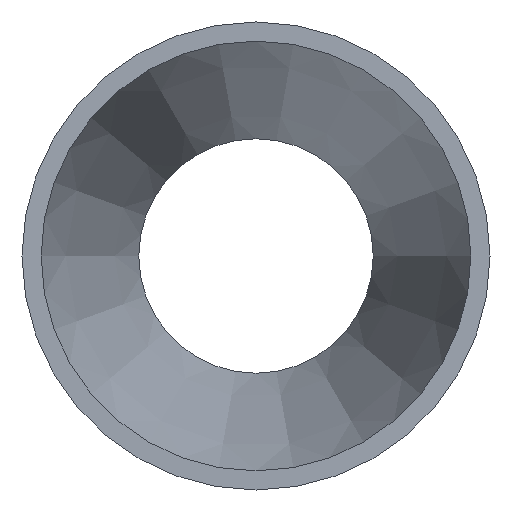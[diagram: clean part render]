
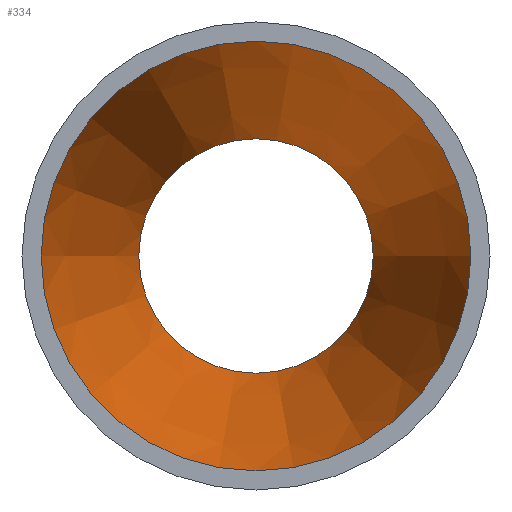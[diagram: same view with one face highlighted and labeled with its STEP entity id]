
A CAD part, left-side view. The second image highlights one B-rep face of the part: STEP entity #334.
In plain terms, the highlighted conical face has half-angle 13.601 degrees and reference radius 25.908 mm.
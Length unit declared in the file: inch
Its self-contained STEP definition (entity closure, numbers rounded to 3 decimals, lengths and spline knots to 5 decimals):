
#66=FACE_OUTER_BOUND('',#82,.T.);
#82=EDGE_LOOP('',(#235,#236,#237,#238,#239,#240));
#104=LINE('',#580,#114);
#114=VECTOR('',#447,1.02);
#127=CIRCLE('',#375,0.72);
#128=CIRCLE('',#376,1.32);
#129=CIRCLE('',#377,1.32);
#130=CIRCLE('',#378,0.72);
#159=VERTEX_POINT('',#576);
#160=VERTEX_POINT('',#577);
#161=VERTEX_POINT('',#579);
#162=VERTEX_POINT('',#581);
#192=EDGE_CURVE('',#159,#160,#127,.T.);
#193=EDGE_CURVE('',#160,#161,#104,.T.);
#194=EDGE_CURVE('',#162,#161,#128,.T.);
#195=EDGE_CURVE('',#161,#162,#129,.T.);
#196=EDGE_CURVE('',#160,#159,#130,.T.);
#235=ORIENTED_EDGE('',*,*,#192,.T.);
#236=ORIENTED_EDGE('',*,*,#193,.T.);
#237=ORIENTED_EDGE('',*,*,#194,.F.);
#238=ORIENTED_EDGE('',*,*,#195,.F.);
#239=ORIENTED_EDGE('',*,*,#193,.F.);
#240=ORIENTED_EDGE('',*,*,#196,.T.);
#314=CONICAL_SURFACE('',#374,1.02,0.237);
#334=ADVANCED_FACE('',(#66),#314,.F.);
#374=AXIS2_PLACEMENT_3D('',#575,#443,#444);
#375=AXIS2_PLACEMENT_3D('',#578,#445,#446);
#376=AXIS2_PLACEMENT_3D('',#582,#448,#449);
#377=AXIS2_PLACEMENT_3D('',#583,#450,#451);
#378=AXIS2_PLACEMENT_3D('',#584,#452,#453);
#443=DIRECTION('center_axis',(-1.,0.,0.));
#444=DIRECTION('ref_axis',(0.,1.,0.));
#445=DIRECTION('center_axis',(1.,0.,0.));
#446=DIRECTION('ref_axis',(0.,1.,0.));
#447=DIRECTION('',(-0.972,-0.235,0.));
#448=DIRECTION('center_axis',(1.,0.,0.));
#449=DIRECTION('ref_axis',(0.,1.,0.));
#450=DIRECTION('center_axis',(1.,0.,0.));
#451=DIRECTION('ref_axis',(0.,1.,0.));
#452=DIRECTION('center_axis',(1.,0.,0.));
#453=DIRECTION('ref_axis',(0.,1.,0.));
#575=CARTESIAN_POINT('Origin',(2.5,0.,0.));
#576=CARTESIAN_POINT('',(3.74,0.72,0.));
#577=CARTESIAN_POINT('',(3.74,-0.72,0.));
#578=CARTESIAN_POINT('Origin',(3.74,0.,0.));
#579=CARTESIAN_POINT('',(1.26,-1.32,0.));
#580=CARTESIAN_POINT('',(2.5,-1.02,0.));
#581=CARTESIAN_POINT('',(1.26,1.32,0.));
#582=CARTESIAN_POINT('Origin',(1.26,0.,0.));
#583=CARTESIAN_POINT('Origin',(1.26,0.,0.));
#584=CARTESIAN_POINT('Origin',(3.74,0.,0.));
